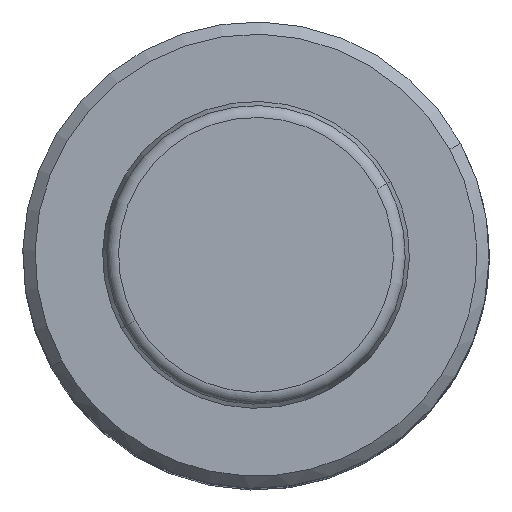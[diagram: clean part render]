
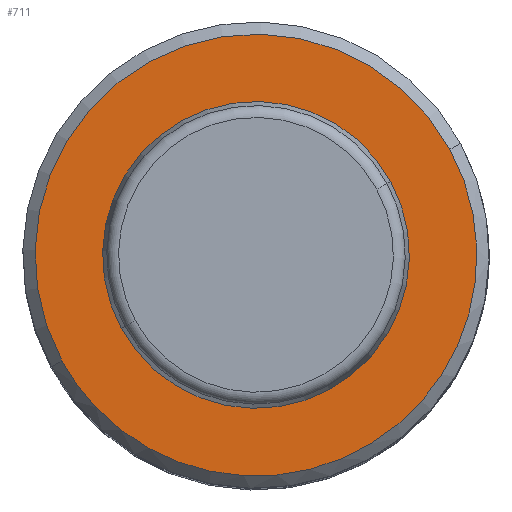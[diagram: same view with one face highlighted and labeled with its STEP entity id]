
A CAD part, top view. The second image highlights one B-rep face of the part: STEP entity #711.
In plain terms, the highlighted planar face has unit normal (0, 0, 1).
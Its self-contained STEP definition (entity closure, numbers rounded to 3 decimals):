
#641=CARTESIAN_POINT('Axis2P3D Location',(0.,0.,64.)) ;
#645=CARTESIAN_POINT('Vertex',(15.796,8.63,64.)) ;
#647=CARTESIAN_POINT('Vertex',(-15.796,-8.63,64.)) ;
#676=CARTESIAN_POINT('Axis2P3D Location',(18.,0.,64.)) ;
#682=CARTESIAN_POINT('Control Point',(15.796,8.63,64.)) ;
#683=CARTESIAN_POINT('Control Point',(16.594,7.17,64.)) ;
#684=CARTESIAN_POINT('Control Point',(17.222,5.619,64.)) ;
#685=CARTESIAN_POINT('Control Point',(17.668,4.002,64.)) ;
#686=CARTESIAN_POINT('Control Point',(18.179,0.693,64.)) ;
#687=CARTESIAN_POINT('Control Point',(17.922,-2.644,64.)) ;
#688=CARTESIAN_POINT('Control Point',(17.6,-4.291,64.)) ;
#689=CARTESIAN_POINT('Control Point',(16.583,-7.48,64.)) ;
#690=CARTESIAN_POINT('Control Point',(14.865,-10.354,64.)) ;
#691=CARTESIAN_POINT('Control Point',(13.844,-11.685,64.)) ;
#692=CARTESIAN_POINT('Control Point',(11.512,-14.086,64.)) ;
#693=CARTESIAN_POINT('Control Point',(8.694,-15.893,64.)) ;
#694=CARTESIAN_POINT('Control Point',(7.186,-16.63,64.)) ;
#695=CARTESIAN_POINT('Control Point',(4.028,-17.74,64.)) ;
#696=CARTESIAN_POINT('Control Point',(0.7,-18.102,64.)) ;
#697=CARTESIAN_POINT('Control Point',(-0.978,-18.089,64.)) ;
#698=CARTESIAN_POINT('Control Point',(-4.3,-17.677,64.)) ;
#699=CARTESIAN_POINT('Control Point',(-7.44,-16.518,64.)) ;
#700=CARTESIAN_POINT('Control Point',(-8.936,-15.758,64.)) ;
#701=CARTESIAN_POINT('Control Point',(-11.45,-14.092,64.)) ;
#702=CARTESIAN_POINT('Control Point',(-13.561,-11.949,64.)) ;
#703=CARTESIAN_POINT('Control Point',(-14.41,-10.91,64.)) ;
#704=CARTESIAN_POINT('Control Point',(-15.157,-9.8,64.)) ;
#705=CARTESIAN_POINT('Control Point',(-15.796,-8.63,64.)) ;
#642=DIRECTION('Axis2P3D Direction',(0.,0.,-1.)) ;
#677=DIRECTION('Axis2P3D Direction',(0.,0.,1.)) ;
#678=DIRECTION('Axis2P3D XDirection',(1.,0.,0.)) ;
#643=AXIS2_PLACEMENT_3D('Circle Axis2P3D',#641,#642,$) ;
#679=AXIS2_PLACEMENT_3D('Plane Axis2P3D',#676,#677,#678) ;
#708=ORIENTED_EDGE('',*,*,#649,.T.) ;
#709=ORIENTED_EDGE('',*,*,#706,.T.) ;
#711=ADVANCED_FACE('',(#710),#680,.T.) ;
#681=B_SPLINE_CURVE_WITH_KNOTS('',5,(#682,#683,#684,#685,#686,#687,#688,#689,#690,#691,#692,#693,#694,#695,#696,#697,#698,#699,#700,#701,#702,#703,#704,#705),.UNSPECIFIED.,.F.,.U.,(6,3,3,3,3,3,3,6),(0.,11.757,23.515,35.272,47.03,58.787,70.545,79.971),.UNSPECIFIED.) ;
#644=CIRCLE('generated circle',#643,18.) ;
#649=EDGE_CURVE('',#646,#648,#644,.F.) ;
#706=EDGE_CURVE('',#648,#646,#681,.F.) ;
#707=EDGE_LOOP('',(#708,#709)) ;
#710=FACE_OUTER_BOUND('',#707,.T.) ;
#680=PLANE('Plane',#679) ;
#646=VERTEX_POINT('',#645) ;
#648=VERTEX_POINT('',#647) ;
